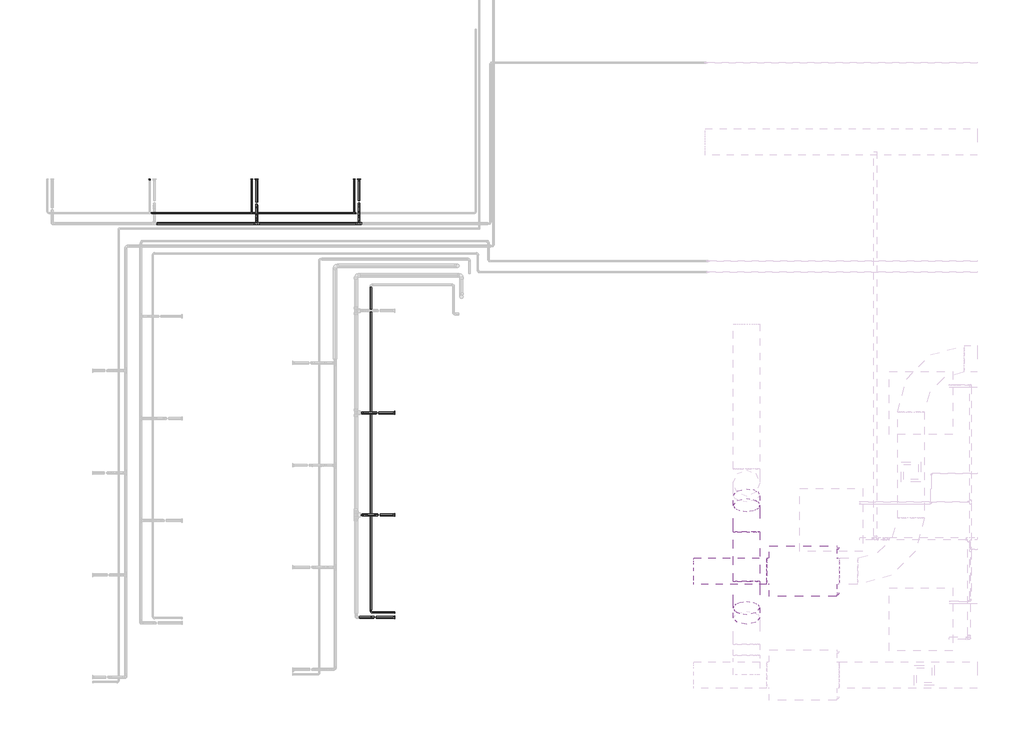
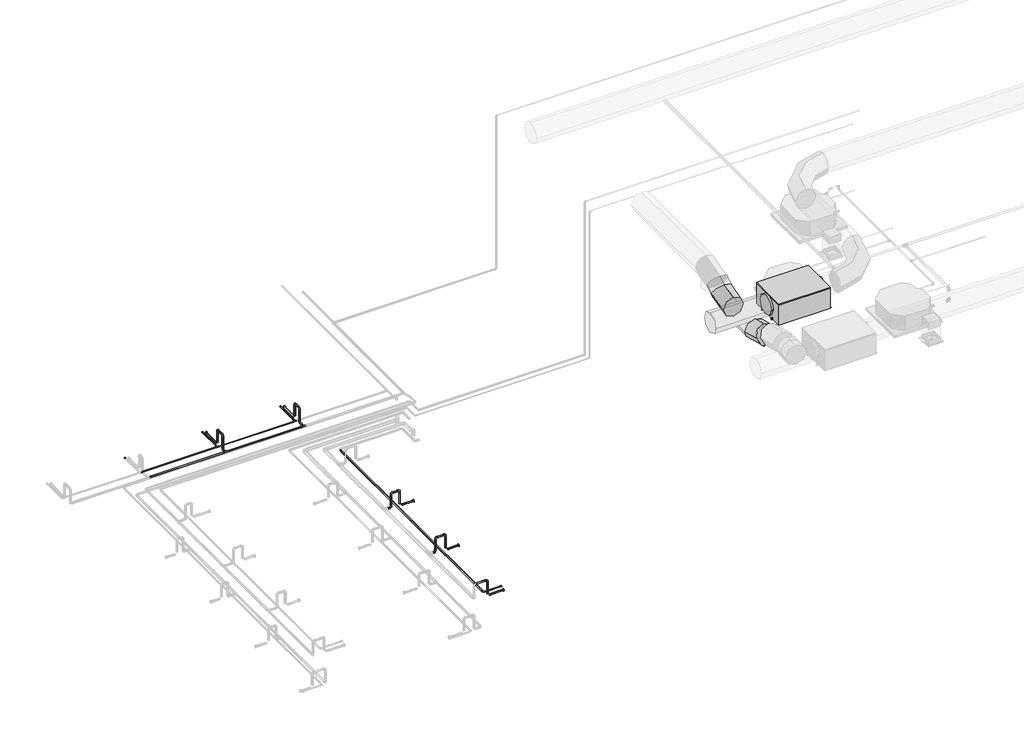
# One storey, part 4 of 22: 30 pipe segments, 28 pipe fittings, 4 duct segments, 2 duct fittings, 1 proxy.
"""IFC4 building model written with IfcOpenShell, lengths in millimetres."""

from ifc_helpers import new_model, si_unit, point, frame, frame_2d, origin, place, context, project, spatial, circle_curve, trimmed, segment, composite_curve, outline, extrude, transform, mapped, element, save
from components import fh_fh_400_6e0c7af0, duct_fitting_2_d_6dcb9c69, pipe_fitting_fefc82c8, pipe_fitting_16c020f5, pipe_fitting_b10472de, pipe_fitting_3263ca60, pipe_fitting_ae0032d9, pipe_fitting_bf9d9dba, pipe_fitting_13562042

model = new_model("IFC4")

# Units and contexts
model_context = context("Model", 3, world=origin())
ifc_project = project(units=[si_unit("LENGTHUNIT", "METRE", prefix="MILLI")], contexts=[model_context])

# Site, building, storey
site = spatial("IfcSite", under=ifc_project)
building = spatial("IfcBuilding", under=site)
storey = spatial("IfcBuildingStorey", under=building, Name="Nível 2", Elevation=3880.0)

# Proxy
placement = place(None, origin())
fh_fh_400_shape = fh_fh_400_6e0c7af0(model_context)
element("IfcBuildingElementProxy", 1, Name="FH : FH 400", ObjectType="FH : FH 400", at=placement, inside=storey, context=model_context, shape_type="MappedRepresentation", body=[
    mapped(fh_fh_400_shape, transform((-1343.4687297, -7194.5831069, 7280.0), x_axis=(0.0, 1.0, 0.0), y_axis=(-1.0, 0.0, 0.0), z_axis=(0.0, 0.0, 1.0))),
])

# Duct fittings
duct_fitting_2_d_shape = duct_fitting_2_d_6dcb9c69(model_context)
element("IfcDuctFitting", 2, ObjectType="M_Cotovelo redondo : 2 D", at=placement, inside=storey, context=model_context, shape_type="MappedRepresentation", body=[
    mapped(duct_fitting_2_d_shape, transform((-2195.6317244, -7565.5937492, 7201.0), x_axis=(0.0, 0.8660254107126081, -0.49999998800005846), y_axis=(0.0, 0.49999998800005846, 0.8660254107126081), z_axis=(1.0, 0.0, 0.0))),
])
element("IfcDuctFitting", 3, ObjectType="M_Cotovelo redondo : 2 D", at=placement, inside=storey, context=model_context, shape_type="MappedRepresentation", body=[
    mapped(duct_fitting_2_d_shape, transform((-2195.6317244, -6386.3612679, 7201.0), x_axis=(0.0, -0.8660254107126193, -0.49999998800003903), y_axis=(0.0, -0.49999998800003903, 0.8660254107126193), z_axis=(-1.0, 0.0, 0.0))),
])

# Duct segments
element("IfcDuctSegment", 4, ObjectType="Torneiras / Raio curto", at=placement, inside=storey, context=model_context, shape_type="SweptSolid", body=[
    extrude(outline(composite_curve([segment(trimmed(circle_curve(frame_2d((-7194.5831069, 7501.0)), 200.0), [point((-6994.5831069, 7501.0))], [point((-7194.5831069, 7301.0))], False, "CARTESIAN"), True, "CONTINUOUS"), segment(trimmed(circle_curve(frame_2d((-7194.5831069, 7501.0)), 200.0), [point((-7194.5831069, 7301.0))], [point((-7394.5831069, 7501.0))], False, "CARTESIAN"), True, "CONTINUOUS"), segment(trimmed(circle_curve(frame_2d((-7194.5831069, 7501.0)), 200.0), [point((-7394.5831069, 7501.0))], [point((-7194.5831069, 7701.0))], False, "CARTESIAN"), True, "CONTINUOUS"), segment(trimmed(circle_curve(frame_2d((-7194.5831069, 7501.0)), 200.0), [point((-7194.5831069, 7701.0))], [point((-6994.5831069, 7501.0))], False, "CARTESIAN"), True, "CONTINUOUS")], self_intersect=False)), frame((-2990.4687297, 0.0, 0.0), z_axis=(1.0, 0.0, 0.0), x_axis=(0.0, 1.0, 0.0)), (0.0, 0.0, 1.0), 1100.0),
])
element("IfcDuctSegment", 5, ObjectType="Torneiras / Raio curto", at=placement, inside=storey, context=model_context, shape_type="SweptSolid", body=[
    extrude(outline(composite_curve([segment(trimmed(circle_curve(frame_2d((7201.0, -2195.6317244)), 200.0), [point((7201.0, -1995.6317244))], [point((7401.0, -2195.6317244))], False, "CARTESIAN"), True, "CONTINUOUS"), segment(trimmed(circle_curve(frame_2d((7201.0, -2195.6317244)), 200.0), [point((7401.0, -2195.6317244))], [point((7201.0, -2395.6317244))], False, "CARTESIAN"), True, "CONTINUOUS"), segment(trimmed(circle_curve(frame_2d((7201.0, -2195.6317244)), 200.0), [point((7201.0, -2395.6317244))], [point((7001.0, -2195.6317244))], False, "CARTESIAN"), True, "CONTINUOUS"), segment(trimmed(circle_curve(frame_2d((7201.0, -2195.6317244)), 200.0), [point((7001.0, -2195.6317244))], [point((7201.0, -1995.6317244))], False, "CARTESIAN"), True, "CONTINUOUS")], self_intersect=False)), frame((0.0, -7351.2344012, 0.0), z_axis=(0.0, 1.0, 0.0), x_axis=(0.0, 0.0, 1.0)), (0.0, 0.0, 1.0), 750.5137853),
])
element("IfcDuctSegment", 6, ObjectType="Torneiras / Raio curto", at=placement, inside=storey, context=model_context, shape_type="SweptSolid", body=[
    extrude(outline(composite_curve([segment(trimmed(circle_curve(frame_2d((0.0, -200.0)), 200.0), [point((-200.0, -200.0))], [point((0.0, 0.0))], False, "CARTESIAN"), True, "CONTINUOUS"), segment(trimmed(circle_curve(frame_2d((0.0, -200.0)), 200.0), [point((0.0, 0.0))], [point((200.0, -200.0))], False, "CARTESIAN"), True, "CONTINUOUS"), segment(trimmed(circle_curve(frame_2d((0.0, -200.0)), 200.0), [point((200.0, -200.0))], [point((0.0, -400.0))], False, "CARTESIAN"), True, "CONTINUOUS"), segment(trimmed(circle_curve(frame_2d((0.0, -200.0)), 200.0), [point((0.0, -400.0))], [point((-200.0, -200.0))], False, "CARTESIAN"), True, "CONTINUOUS")], self_intersect=False)), frame((-2195.6317244, -6100.7206279, 7134.9745893), z_axis=(0.0, 0.8660254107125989, 0.4999999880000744), x_axis=(1.0, 0.0, 0.0)), (0.0, 0.0, 1.0), 171.2813184),
])
element("IfcDuctSegment", 7, ObjectType="Torneiras / Raio curto", at=placement, inside=storey, context=model_context, shape_type="SweptSolid", body=[
    extrude(outline(composite_curve([segment(trimmed(circle_curve(frame_2d((0.0, -200.0)), 200.0), [point((200.0, -200.0))], [point((0.0, -400.0))], False, "CARTESIAN"), True, "CONTINUOUS"), segment(trimmed(circle_curve(frame_2d((0.0, -200.0)), 200.0), [point((0.0, -400.0))], [point((-200.0, -200.0))], False, "CARTESIAN"), True, "CONTINUOUS"), segment(trimmed(circle_curve(frame_2d((0.0, -200.0)), 200.0), [point((-200.0, -200.0))], [point((0.0, 0.0))], False, "CARTESIAN"), True, "CONTINUOUS"), segment(trimmed(circle_curve(frame_2d((0.0, -200.0)), 200.0), [point((0.0, 0.0))], [point((200.0, -200.0))], False, "CARTESIAN"), True, "CONTINUOUS")], self_intersect=False)), frame((-2195.6317244, -7651.234394, 7481.3847536), z_axis=(0.0, -0.866025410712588, 0.4999999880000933), x_axis=(1.0, 0.0, 0.0)), (0.0, 0.0, 1.0), 171.2813184),
])

# Pipe fittings
pipe_fitting_shape = pipe_fitting_fefc82c8(model_context)
element("IfcPipeFitting", 8, ObjectType="Cotovelo - Soldado - CU : Padrão", at=placement, inside=storey, context=model_context, shape_type="MappedRepresentation", body=[
    mapped(pipe_fitting_shape, transform((-7817.0970934, -7890.4373291, 4218.9), x_axis=(0.0, 0.0, 1.0), y_axis=(-1.0, 0.0, 0.0), z_axis=(0.0, -1.0, 0.0))),
])
element("IfcPipeFitting", 9, ObjectType="Cotovelo - Soldado - CU : Padrão", at=placement, inside=storey, context=model_context, shape_type="MappedRepresentation", body=[
    mapped(pipe_fitting_shape, transform((-7757.0970933, -6346.4369367, 4218.8998749), x_axis=(0.0, 0.0, 1.0), y_axis=(-1.0, 0.0, 0.0), z_axis=(0.0, -1.0, 0.0))),
])
element("IfcPipeFitting", 10, ObjectType="Cotovelo - Soldado - CU : Padrão", at=placement, inside=storey, context=model_context, shape_type="MappedRepresentation", body=[
    mapped(pipe_fitting_shape, transform((-7957.0970933, -6346.4373291, 4218.9), x_axis=(-1.0, 0.0, 0.0), y_axis=(0.0, 0.0, -1.0), z_axis=(0.0, -1.0, 0.0))),
])
element("IfcPipeFitting", 11, ObjectType="Cotovelo - Soldado - CU : Padrão", at=placement, inside=storey, context=model_context, shape_type="MappedRepresentation", body=[
    mapped(pipe_fitting_shape, transform((-7957.0970933, -6346.4373291, 3918.9), x_axis=(0.0, 0.0, -1.0), y_axis=(-1.0, 0.0, 0.0), z_axis=(0.0, 1.0, 0.0))),
])
element("IfcPipeFitting", 12, ObjectType="Cotovelo - Soldado - CU : Padrão", at=placement, inside=storey, context=model_context, shape_type="MappedRepresentation", body=[
    mapped(pipe_fitting_shape, transform((-7777.0970933, -4807.4369647, 4218.8998838), x_axis=(0.0, 0.0, 1.0), y_axis=(-1.0, 0.0, 0.0), z_axis=(0.0, -1.0, 0.0))),
])
element("IfcPipeFitting", 13, ObjectType="Cotovelo - Soldado - CU : Padrão", at=placement, inside=storey, context=model_context, shape_type="MappedRepresentation", body=[
    mapped(pipe_fitting_shape, transform((-7947.0970933, -4807.4373291, 4218.9), x_axis=(-1.0, 0.0, 0.0), y_axis=(0.0, 0.0, -1.0), z_axis=(0.0, -1.0, 0.0))),
])
element("IfcPipeFitting", 14, ObjectType="Cotovelo - Soldado - CU : Padrão", at=placement, inside=storey, context=model_context, shape_type="MappedRepresentation", body=[
    mapped(pipe_fitting_shape, transform((-7947.0970933, -4807.4373291, 3918.9), x_axis=(0.0, 0.0, -1.0), y_axis=(-1.0, 0.0, 0.0), z_axis=(0.0, 1.0, 0.0))),
])
element("IfcPipeFitting", 15, ObjectType="Cotovelo - Soldado - CU : Padrão", at=placement, inside=storey, context=model_context, shape_type="MappedRepresentation", body=[
    mapped(pipe_fitting_shape, transform((-9580.0372756, -1672.2521774, 4218.9), x_axis=(0.0, 0.0, 1.0), y_axis=(0.0, -1.0, 0.0), z_axis=(1.0, 0.0, 0.0))),
])
element("IfcPipeFitting", 16, ObjectType="Cotovelo - Soldado - CU : Padrão", at=placement, inside=storey, context=model_context, shape_type="MappedRepresentation", body=[
    mapped(pipe_fitting_shape, transform((-9580.0372756, -1852.2521782, 4218.9), x_axis=(0.0, -1.0, 0.0), y_axis=(0.0, 0.0, -1.0), z_axis=(1.0, 0.0, 0.0))),
])
element("IfcPipeFitting", 17, ObjectType="Cotovelo - Soldado - CU : Padrão", at=placement, inside=storey, context=model_context, shape_type="MappedRepresentation", body=[
    mapped(pipe_fitting_shape, transform((-9580.0372756, -1852.2521782, 3918.9), x_axis=(0.0, 0.0, -1.0), y_axis=(0.0, -1.0, 0.0), z_axis=(-1.0, 0.0, 0.0))),
])
element("IfcPipeFitting", 18, ObjectType="Cotovelo - Soldado - CU : Padrão", at=placement, inside=storey, context=model_context, shape_type="MappedRepresentation", body=[
    mapped(pipe_fitting_shape, transform((-8036.0372756, -1652.2521774, 4218.9), x_axis=(0.0, 0.0, 1.0), y_axis=(0.0, -1.0, 0.0), z_axis=(1.0, 0.0, 0.0))),
])
element("IfcPipeFitting", 19, ObjectType="Cotovelo - Soldado - CU : Padrão", at=placement, inside=storey, context=model_context, shape_type="MappedRepresentation", body=[
    mapped(pipe_fitting_shape, transform((-8036.0372756, -1812.2521782, 4218.9), x_axis=(0.0, -1.0, 0.0), y_axis=(0.0, 0.0, -1.0), z_axis=(1.0, 0.0, 0.0))),
])
element("IfcPipeFitting", 20, ObjectType="Cotovelo - Soldado - CU : Padrão", at=placement, inside=storey, context=model_context, shape_type="MappedRepresentation", body=[
    mapped(pipe_fitting_shape, transform((-8036.0372756, -1812.2521782, 3918.9), x_axis=(0.0, 0.0, -1.0), y_axis=(0.0, -1.0, 0.0), z_axis=(-1.0, 0.0, 0.0))),
])
pipe_fitting_2_shape = pipe_fitting_16c020f5(model_context)
element("IfcPipeFitting", 21, ObjectType="Cotovelo - Soldado - CU : Padrão", at=placement, inside=storey, context=model_context, shape_type="MappedRepresentation", body=[
    mapped(pipe_fitting_2_shape, transform((-7857.0970926, -7817.4373291, 3935.5448465), x_axis=(0.0, -1.0, 0.0), y_axis=(0.9999999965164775, 0.0, 8.346882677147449e-05), z_axis=(-8.346882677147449e-05, 0.0, 0.9999999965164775))),
])
pipe_fitting_3_shape = pipe_fitting_b10472de(model_context)
element("IfcPipeFitting", 22, ObjectType="Tê - Soldado - CU : Padrão", at=placement, inside=storey, context=model_context, shape_type="MappedRepresentation", body=[
    mapped(pipe_fitting_3_shape, transform((-9653.0372756, -1792.2521765, 3954.5883608), x_axis=(-1.0, 0.0, 0.0), y_axis=(0.0, -0.9999999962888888, -8.615232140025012e-05), z_axis=(0.0, -8.615232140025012e-05, 0.9999999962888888))),
])
element("IfcPipeFitting", 23, ObjectType="Tê - Soldado - CU : Padrão", at=placement, inside=storey, context=model_context, shape_type="MappedRepresentation", body=[
    mapped(pipe_fitting_3_shape, transform((-8109.0372756, -1792.2521763, 3954.5864724), x_axis=(-1.0, 0.0, 0.0), y_axis=(0.0, -0.9999999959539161, -8.995647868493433e-05), z_axis=(0.0, -8.995647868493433e-05, 0.9999999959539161))),
])
pipe_fitting_4_shape = pipe_fitting_3263ca60(model_context)
element("IfcPipeFitting", 24, ObjectType="Bucha de redução reta - Soldada - CU : Padrão", at=placement, inside=storey, context=model_context, shape_type="MappedRepresentation", body=[
    mapped(pipe_fitting_4_shape, transform((-7497.0970939, -7890.4373291, 3899.7972653), x_axis=(-1.0, 0.0, 0.0), y_axis=(0.0, -1.0, 0.0), z_axis=(0.0, 0.0, 1.0))),
])
element("IfcPipeFitting", 25, ObjectType="Bucha de redução reta - Soldada - CU : Padrão", at=placement, inside=storey, context=model_context, shape_type="MappedRepresentation", body=[
    mapped(pipe_fitting_4_shape, transform((-7497.0970939, -6346.4373291, 3899.7972653), x_axis=(-1.0, 0.0, 0.0), y_axis=(0.0, -1.0, 0.0), z_axis=(0.0, 0.0, 1.0))),
])
element("IfcPipeFitting", 26, ObjectType="Bucha de redução reta - Soldada - CU : Padrão", at=placement, inside=storey, context=model_context, shape_type="MappedRepresentation", body=[
    mapped(pipe_fitting_4_shape, transform((-7497.0970939, -4807.4373291, 3899.7972653), x_axis=(-1.0, 0.0, 0.0), y_axis=(0.0, -1.0, 0.0), z_axis=(0.0, 0.0, 1.0))),
])
element("IfcPipeFitting", 27, ObjectType="Bucha de redução reta - Soldada - CU : Padrão", at=placement, inside=storey, context=model_context, shape_type="MappedRepresentation", body=[
    mapped(pipe_fitting_4_shape, transform((-9580.0372756, -1282.1712342, 3918.8823309), x_axis=(0.0, -1.0, 0.0), y_axis=(1.0, 0.0, 0.0), z_axis=(0.0, 0.0, 1.0))),
])
element("IfcPipeFitting", 28, ObjectType="Bucha de redução reta - Soldada - CU : Padrão", at=placement, inside=storey, context=model_context, shape_type="MappedRepresentation", body=[
    mapped(pipe_fitting_4_shape, transform((-8036.0372756, -1282.1712342, 3918.8823309), x_axis=(0.0, -1.0, 0.0), y_axis=(1.0, 0.0, 0.0), z_axis=(0.0, 0.0, 1.0))),
])
pipe_fitting_5_shape = pipe_fitting_ae0032d9(model_context)
element("IfcPipeFitting", 29, ObjectType="Tê - Soldado - CU : Padrão", at=placement, inside=storey, context=model_context, shape_type="MappedRepresentation", body=[
    mapped(pipe_fitting_5_shape, transform((-9580.0372756, -1952.2521784, 3918.9), x_axis=(-1.0, 0.0, 0.0), y_axis=(0.0, -1.0, 0.0), z_axis=(0.0, 0.0, 1.0))),
])
element("IfcPipeFitting", 30, ObjectType="Tê - Soldado - CU : Padrão", at=placement, inside=storey, context=model_context, shape_type="MappedRepresentation", body=[
    mapped(pipe_fitting_5_shape, transform((-8036.0372756, -1952.2521784, 3918.9), x_axis=(-1.0, 0.0, 0.0), y_axis=(0.0, -1.0, 0.0), z_axis=(0.0, 0.0, 1.0))),
])
pipe_fitting_6_shape = pipe_fitting_bf9d9dba(model_context)
element("IfcPipeFitting", 31, ObjectType="Bucha de redução reta - Soldada - CU : Padrão", at=placement, inside=storey, context=model_context, shape_type="MappedRepresentation", body=[
    mapped(pipe_fitting_6_shape, transform((-7497.0970939, -7817.4373291, 3935.5472653), x_axis=(-1.0, 0.0, 0.0), y_axis=(0.0, -1.0, 0.0), z_axis=(0.0, 0.0, 1.0))),
])
pipe_fitting_7_shape = pipe_fitting_13562042(model_context)
element("IfcPipeFitting", 32, ObjectType="Bucha de redução reta - Soldada - CU : Padrão", at=placement, inside=storey, context=model_context, shape_type="MappedRepresentation", body=[
    mapped(pipe_fitting_7_shape, transform((-11192.0372756, -1294.8301342, 3954.6312168), x_axis=(0.0, 0.9999999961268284, 8.801331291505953e-05), y_axis=(-1.0000000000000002, 0.0, 0.0), z_axis=(0.0, -8.801331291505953e-05, 0.9999999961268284))),
])
element("IfcPipeFitting", 33, ObjectType="Bucha de redução reta - Soldada - CU : Padrão", at=placement, inside=storey, context=model_context, shape_type="MappedRepresentation", body=[
    mapped(pipe_fitting_7_shape, transform((-9653.0372756, -1294.8301342, 3954.6312148), x_axis=(0.0, 0.9999999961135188, 8.816440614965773e-05), y_axis=(-1.0, 0.0, 0.0), z_axis=(0.0, -8.816440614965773e-05, 0.9999999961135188))),
])
element("IfcPipeFitting", 34, ObjectType="Bucha de redução reta - Soldada - CU : Padrão", at=placement, inside=storey, context=model_context, shape_type="MappedRepresentation", body=[
    mapped(pipe_fitting_7_shape, transform((-8109.0372756, -1294.8301342, 3954.6312188), x_axis=(0.0, 0.9999999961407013, 8.785554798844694e-05), y_axis=(-1.0, 0.0, 0.0), z_axis=(0.0, -8.785554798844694e-05, 0.9999999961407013))),
])
element("IfcPipeFitting", 35, ObjectType="Bucha de redução reta - Soldada - CU : Padrão", at=placement, inside=storey, context=model_context, shape_type="MappedRepresentation", body=[
    mapped(pipe_fitting_7_shape, transform((-7857.0970926, -7788.4587291, 3935.5448465), x_axis=(0.0, 1.0, 0.0), y_axis=(-0.9999999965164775, 0.0, -8.346882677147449e-05), z_axis=(-8.346882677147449e-05, 0.0, 0.9999999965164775))),
])

# Pipe segments
element("IfcPipeSegment", 36, ObjectType="Tubos de cobre HVAC", at=placement, inside=storey, context=model_context, shape_type="SweptSolid", body=[
    extrude(outline(composite_curve([segment(trimmed(circle_curve(frame_2d((0.0, 13.9999999)), 14.0), [point((-14.0, 13.9999999))], [point((0.0, 27.9999999))], False, "CARTESIAN"), True, "CONTINUOUS"), segment(trimmed(circle_curve(frame_2d((0.0, 13.9999999)), 14.0), [point((0.0, 27.9999999))], [point((14.0, 13.9999999))], False, "CARTESIAN"), True, "CONTINUOUS"), segment(trimmed(circle_curve(frame_2d((0.0, 13.9999999)), 14.0), [point((14.0, 13.9999999))], [point((0.0, 0.0))], False, "CARTESIAN"), True, "CONTINUOUS"), segment(trimmed(circle_curve(frame_2d((0.0, 13.9999999)), 14.0), [point((0.0, 0.0))], [point((-14.0, 13.9999999))], False, "CARTESIAN"), True, "CONTINUOUS")], self_intersect=False)), frame((-7516.4979168, -7890.4373291, 3885.7972654), z_axis=(-0.9999999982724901, 0.0, 5.877941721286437e-05), x_axis=(0.0, -1.0, 0.0)), (0.0, 0.0, 1.0), 258.4011218),
])
element("IfcPipeSegment", 37, ObjectType="Tubos de cobre HVAC", at=placement, inside=storey, context=model_context, shape_type="SweptSolid", body=[
    extrude(outline(composite_curve([segment(trimmed(circle_curve(frame_2d((0.0, -14.0)), 14.0), [point((-14.0, -14.0))], [point((0.0, 0.0))], False, "CARTESIAN"), True, "CONTINUOUS"), segment(trimmed(circle_curve(frame_2d((0.0, -14.0)), 14.0), [point((0.0, 0.0))], [point((14.0, -14.0))], False, "CARTESIAN"), True, "CONTINUOUS"), segment(trimmed(circle_curve(frame_2d((0.0, -14.0)), 14.0), [point((14.0, -14.0))], [point((0.0, -28.0))], False, "CARTESIAN"), True, "CONTINUOUS"), segment(trimmed(circle_curve(frame_2d((0.0, -14.0)), 14.0), [point((0.0, -28.0))], [point((-14.0, -14.0))], False, "CARTESIAN"), True, "CONTINUOUS")], self_intersect=False)), frame((-7817.0982152, -7904.4373291, 3942.0149346), z_axis=(4.780061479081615e-06, 0.0, 0.9999999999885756), x_axis=(-0.9999999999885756, 0.0, 4.780061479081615e-06)), (0.0, 0.0, 1.0), 234.6850654),
])
element("IfcPipeSegment", 38, ObjectType="Tubos de cobre HVAC", at=placement, inside=storey, context=model_context, shape_type="SweptSolid", body=[
    extrude(outline(composite_curve([segment(trimmed(circle_curve(frame_2d((-7890.4373291, 4218.9)), 14.0), [point((-7876.4373291, 4218.9))], [point((-7890.4373291, 4204.9))], False, "CARTESIAN"), True, "CONTINUOUS"), segment(trimmed(circle_curve(frame_2d((-7890.4373291, 4218.9)), 14.0), [point((-7890.4373291, 4204.9))], [point((-7904.4373291, 4218.9))], False, "CARTESIAN"), True, "CONTINUOUS"), segment(trimmed(circle_curve(frame_2d((-7890.4373291, 4218.9)), 14.0), [point((-7904.4373291, 4218.9))], [point((-7890.4373291, 4232.9))], False, "CARTESIAN"), True, "CONTINUOUS"), segment(trimmed(circle_curve(frame_2d((-7890.4373291, 4218.9)), 14.0), [point((-7890.4373291, 4232.9))], [point((-7876.4373291, 4218.9))], False, "CARTESIAN"), True, "CONTINUOUS")], self_intersect=False)), frame((-8035.6302691, 0.0, 0.0), z_axis=(1.0, 0.0, 0.0), x_axis=(0.0, 1.0, 0.0)), (0.0, 0.0, 1.0), 176.3331757),
])
element("IfcPipeSegment", 39, ObjectType="Tubos de cobre HVAC", at=placement, inside=storey, context=model_context, shape_type="SweptSolid", body=[
    extrude(outline(composite_curve([segment(trimmed(circle_curve(frame_2d((0.0, 13.9999999)), 14.0), [point((-14.0, 13.9999999))], [point((0.0, 28.0))], False, "CARTESIAN"), True, "CONTINUOUS"), segment(trimmed(circle_curve(frame_2d((0.0, 13.9999999)), 14.0), [point((0.0, 28.0))], [point((14.0, 13.9999999))], False, "CARTESIAN"), True, "CONTINUOUS"), segment(trimmed(circle_curve(frame_2d((0.0, 13.9999999)), 14.0), [point((14.0, 13.9999999))], [point((0.0, 0.0))], False, "CARTESIAN"), True, "CONTINUOUS"), segment(trimmed(circle_curve(frame_2d((0.0, 13.9999999)), 14.0), [point((0.0, 0.0))], [point((-14.0, 13.9999999))], False, "CARTESIAN"), True, "CONTINUOUS")], self_intersect=False)), frame((-7516.4981299, -6346.4373291, 3885.7972654), z_axis=(-0.9999999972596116, 1.9778757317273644e-06, 7.400584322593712e-05), x_axis=(-1.977875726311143e-06, -0.999999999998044, 1.4637357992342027e-10)), (0.0, 0.0, 1.0), 198.4012941),
])
element("IfcPipeSegment", 40, ObjectType="Tubos de cobre HVAC", at=placement, inside=storey, context=model_context, shape_type="SweptSolid", body=[
    extrude(outline(composite_curve([segment(trimmed(circle_curve(frame_2d((0.0, -14.0)), 14.0), [point((-14.0, -14.0))], [point((0.0, 0.0))], False, "CARTESIAN"), True, "CONTINUOUS"), segment(trimmed(circle_curve(frame_2d((0.0, -14.0)), 14.0), [point((0.0, 0.0))], [point((14.0, -14.0))], False, "CARTESIAN"), True, "CONTINUOUS"), segment(trimmed(circle_curve(frame_2d((0.0, -14.0)), 14.0), [point((14.0, -14.0))], [point((0.0, -28.0))], False, "CARTESIAN"), True, "CONTINUOUS"), segment(trimmed(circle_curve(frame_2d((0.0, -14.0)), 14.0), [point((0.0, -28.0))], [point((-14.0, -14.0))], False, "CARTESIAN"), True, "CONTINUOUS")], self_intersect=False)), frame((-7757.0983873, -6360.4369367, 3942.0148095), z_axis=(5.513762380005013e-06, 0.0, 0.9999999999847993), x_axis=(-0.9999999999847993, 0.0, 5.513762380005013e-06)), (0.0, 0.0, 1.0), 234.6850654),
])
element("IfcPipeSegment", 41, ObjectType="Tubos de cobre HVAC", at=placement, inside=storey, context=model_context, shape_type="SweptSolid", body=[
    extrude(outline(composite_curve([segment(trimmed(circle_curve(frame_2d((0.0, -14.0)), 14.0), [point((-14.0, -14.0))], [point((0.0, 0.0))], False, "CARTESIAN"), True, "CONTINUOUS"), segment(trimmed(circle_curve(frame_2d((0.0, -14.0)), 14.0), [point((0.0, 0.0))], [point((14.0, -14.0))], False, "CARTESIAN"), True, "CONTINUOUS"), segment(trimmed(circle_curve(frame_2d((0.0, -14.0)), 14.0), [point((14.0, -14.0))], [point((0.0, -28.0))], False, "CARTESIAN"), True, "CONTINUOUS"), segment(trimmed(circle_curve(frame_2d((0.0, -14.0)), 14.0), [point((0.0, -28.0))], [point((-14.0, -14.0))], False, "CARTESIAN"), True, "CONTINUOUS")], self_intersect=False)), frame((-7914.8970933, -6346.4373291, 4204.8998749), z_axis=(0.9999999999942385, 3.394577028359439e-06, 0.0), x_axis=(3.394577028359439e-06, -0.9999999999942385, 0.0)), (0.0, 0.0, 1.0), 115.6),
])
element("IfcPipeSegment", 42, ObjectType="Tubos de cobre HVAC", at=placement, inside=storey, context=model_context, shape_type="SweptSolid", body=[
    extrude(outline(composite_curve([segment(trimmed(circle_curve(frame_2d((-7957.0970933, -6346.4373291)), 14.0), [point((-7971.0970933, -6346.4373291))], [point((-7957.0970933, -6332.4373291))], False, "CARTESIAN"), True, "CONTINUOUS"), segment(trimmed(circle_curve(frame_2d((-7957.0970933, -6346.4373291)), 14.0), [point((-7957.0970933, -6332.4373291))], [point((-7943.0970933, -6346.4373291))], False, "CARTESIAN"), True, "CONTINUOUS"), segment(trimmed(circle_curve(frame_2d((-7957.0970933, -6346.4373291)), 14.0), [point((-7943.0970933, -6346.4373291))], [point((-7957.0970933, -6360.4373291))], False, "CARTESIAN"), True, "CONTINUOUS"), segment(trimmed(circle_curve(frame_2d((-7957.0970933, -6346.4373291)), 14.0), [point((-7957.0970933, -6360.4373291))], [point((-7971.0970933, -6346.4373291))], False, "CARTESIAN"), True, "CONTINUOUS")], self_intersect=False)), frame((0.0, 0.0, 3961.1), z_axis=(0.0, 0.0, 1.0), x_axis=(1.0, 0.0, 0.0)), (0.0, 0.0, 1.0), 215.6),
])
element("IfcPipeSegment", 43, ObjectType="Tubos de cobre HVAC", at=placement, inside=storey, context=model_context, shape_type="SweptSolid", body=[
    extrude(outline(composite_curve([segment(trimmed(circle_curve(frame_2d((0.0, 13.9999999)), 14.0), [point((-14.0, 13.9999999))], [point((0.0, 28.0))], False, "CARTESIAN"), True, "CONTINUOUS"), segment(trimmed(circle_curve(frame_2d((0.0, 13.9999999)), 14.0), [point((0.0, 28.0))], [point((14.0, 13.9999999))], False, "CARTESIAN"), True, "CONTINUOUS"), segment(trimmed(circle_curve(frame_2d((0.0, 13.9999999)), 14.0), [point((14.0, 13.9999999))], [point((0.0, 0.0))], False, "CARTESIAN"), True, "CONTINUOUS"), segment(trimmed(circle_curve(frame_2d((0.0, 13.9999999)), 14.0), [point((0.0, 0.0))], [point((-14.0, 13.9999999))], False, "CARTESIAN"), True, "CONTINUOUS")], self_intersect=False)), frame((-7516.4980487, -4807.4373291, 3885.7972654), z_axis=(-0.9999999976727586, 1.6686879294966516e-06, 6.820336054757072e-05), x_axis=(-1.668687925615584e-06, -0.9999999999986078, 1.1380940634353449e-10)), (0.0, 0.0, 1.0), 218.4012018),
])
element("IfcPipeSegment", 44, ObjectType="Tubos de cobre HVAC", at=placement, inside=storey, context=model_context, shape_type="SweptSolid", body=[
    extrude(outline(composite_curve([segment(trimmed(circle_curve(frame_2d((0.0, -14.0)), 14.0), [point((-14.0, -14.0))], [point((0.0, 0.0))], False, "CARTESIAN"), True, "CONTINUOUS"), segment(trimmed(circle_curve(frame_2d((0.0, -14.0)), 14.0), [point((0.0, 0.0))], [point((14.0, -14.0))], False, "CARTESIAN"), True, "CONTINUOUS"), segment(trimmed(circle_curve(frame_2d((0.0, -14.0)), 14.0), [point((14.0, -14.0))], [point((0.0, -28.0))], False, "CARTESIAN"), True, "CONTINUOUS"), segment(trimmed(circle_curve(frame_2d((0.0, -14.0)), 14.0), [point((0.0, -28.0))], [point((-14.0, -14.0))], False, "CARTESIAN"), True, "CONTINUOUS")], self_intersect=False)), frame((-7777.0982951, -4821.4369647, 3942.0148184), z_axis=(5.120764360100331e-06, 0.0, 0.9999999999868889), x_axis=(-0.9999999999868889, 0.0, 5.120764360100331e-06)), (0.0, 0.0, 1.0), 234.6850654),
])
element("IfcPipeSegment", 45, ObjectType="Tubos de cobre HVAC", at=placement, inside=storey, context=model_context, shape_type="SweptSolid", body=[
    extrude(outline(composite_curve([segment(trimmed(circle_curve(frame_2d((0.0, -14.0)), 14.0), [point((-14.0, -14.0))], [point((0.0, 0.0))], False, "CARTESIAN"), True, "CONTINUOUS"), segment(trimmed(circle_curve(frame_2d((0.0, -14.0)), 14.0), [point((0.0, 0.0))], [point((14.0, -14.0))], False, "CARTESIAN"), True, "CONTINUOUS"), segment(trimmed(circle_curve(frame_2d((0.0, -14.0)), 14.0), [point((14.0, -14.0))], [point((0.0, -28.0))], False, "CARTESIAN"), True, "CONTINUOUS"), segment(trimmed(circle_curve(frame_2d((0.0, -14.0)), 14.0), [point((0.0, -28.0))], [point((-14.0, -14.0))], False, "CARTESIAN"), True, "CONTINUOUS")], self_intersect=False)), frame((-7904.8970933, -4807.4373291, 4204.8998838), z_axis=(0.9999999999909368, 4.257516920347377e-06, 0.0), x_axis=(4.257516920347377e-06, -0.9999999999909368, 0.0)), (0.0, 0.0, 1.0), 85.6),
])
element("IfcPipeSegment", 46, ObjectType="Tubos de cobre HVAC", at=placement, inside=storey, context=model_context, shape_type="SweptSolid", body=[
    extrude(outline(composite_curve([segment(trimmed(circle_curve(frame_2d((-7947.0970933, -4807.4373291)), 14.0), [point((-7961.0970933, -4807.4373291))], [point((-7947.0970933, -4793.4373291))], False, "CARTESIAN"), True, "CONTINUOUS"), segment(trimmed(circle_curve(frame_2d((-7947.0970933, -4807.4373291)), 14.0), [point((-7947.0970933, -4793.4373291))], [point((-7933.0970933, -4807.4373291))], False, "CARTESIAN"), True, "CONTINUOUS"), segment(trimmed(circle_curve(frame_2d((-7947.0970933, -4807.4373291)), 14.0), [point((-7933.0970933, -4807.4373291))], [point((-7947.0970933, -4821.4373291))], False, "CARTESIAN"), True, "CONTINUOUS"), segment(trimmed(circle_curve(frame_2d((-7947.0970933, -4807.4373291)), 14.0), [point((-7947.0970933, -4821.4373291))], [point((-7961.0970933, -4807.4373291))], False, "CARTESIAN"), True, "CONTINUOUS")], self_intersect=False)), frame((0.0, 0.0, 3961.1), z_axis=(0.0, 0.0, 1.0), x_axis=(1.0, 0.0, 0.0)), (0.0, 0.0, 1.0), 215.6),
])
element("IfcPipeSegment", 47, ObjectType="Tubos de cobre HVAC", at=placement, inside=storey, context=model_context, shape_type="SweptSolid", body=[
    extrude(outline(composite_curve([segment(trimmed(circle_curve(frame_2d((-4807.4373291, 3918.9)), 14.0), [point((-4821.4373291, 3918.9))], [point((-4807.4373291, 3932.9))], False, "CARTESIAN"), True, "CONTINUOUS"), segment(trimmed(circle_curve(frame_2d((-4807.4373291, 3918.9)), 14.0), [point((-4807.4373291, 3932.9))], [point((-4793.4373291, 3918.9))], False, "CARTESIAN"), True, "CONTINUOUS"), segment(trimmed(circle_curve(frame_2d((-4807.4373291, 3918.9)), 14.0), [point((-4793.4373291, 3918.9))], [point((-4807.4373291, 3904.9))], False, "CARTESIAN"), True, "CONTINUOUS"), segment(trimmed(circle_curve(frame_2d((-4807.4373291, 3918.9)), 14.0), [point((-4807.4373291, 3904.9))], [point((-4821.4373291, 3918.9))], False, "CARTESIAN"), True, "CONTINUOUS")], self_intersect=False)), frame((-8002.5522691, 0.0, 0.0), z_axis=(1.0, 0.0, 0.0), x_axis=(0.0, 1.0, 0.0)), (0.0, 0.0, 1.0), 13.2551758),
])
element("IfcPipeSegment", 48, ObjectType="Tubos de cobre HVAC", at=placement, inside=storey, context=model_context, shape_type="SweptSolid", body=[
    extrude(outline(composite_curve([segment(trimmed(circle_curve(frame_2d((-7817.4373291, 3935.5472653)), 7.935), [point((-7809.5023291, 3935.5472653))], [point((-7817.4373291, 3927.6122653))], False, "CARTESIAN"), True, "CONTINUOUS"), segment(trimmed(circle_curve(frame_2d((-7817.4373291, 3935.5472653)), 7.935), [point((-7817.4373291, 3927.6122653))], [point((-7825.3723291, 3935.5472653))], False, "CARTESIAN"), True, "CONTINUOUS"), segment(trimmed(circle_curve(frame_2d((-7817.4373291, 3935.5472653)), 7.935), [point((-7825.3723291, 3935.5472653))], [point((-7817.4373291, 3943.4822653))], False, "CARTESIAN"), True, "CONTINUOUS"), segment(trimmed(circle_curve(frame_2d((-7817.4373291, 3935.5472653)), 7.935), [point((-7817.4373291, 3943.4822653))], [point((-7809.5023291, 3935.5472653))], False, "CARTESIAN"), True, "CONTINUOUS")], self_intersect=False)), frame((-7828.1184927, 0.0, 0.0), z_axis=(1.0, 0.0, 0.0), x_axis=(0.0, 1.0, 0.0)), (0.0, 0.0, 1.0), 318.3624988),
])
element("IfcPipeSegment", 49, ObjectType="Tubos de cobre HVAC", at=placement, inside=storey, context=model_context, shape_type="SweptSolid", body=[
    extrude(outline(composite_curve([segment(trimmed(circle_curve(frame_2d((3935.5448465, -7857.0970926)), 12.7), [point((3935.5448465, -7844.3970926))], [point((3948.2448465, -7857.0970926))], False, "CARTESIAN"), True, "CONTINUOUS"), segment(trimmed(circle_curve(frame_2d((3935.5448465, -7857.0970926)), 12.7), [point((3948.2448465, -7857.0970926))], [point((3935.5448465, -7869.7970926))], False, "CARTESIAN"), True, "CONTINUOUS"), segment(trimmed(circle_curve(frame_2d((3935.5448465, -7857.0970926)), 12.7), [point((3935.5448465, -7869.7970926))], [point((3922.8448465, -7857.0970926))], False, "CARTESIAN"), True, "CONTINUOUS"), segment(trimmed(circle_curve(frame_2d((3935.5448465, -7857.0970926)), 12.7), [point((3922.8448465, -7857.0970926))], [point((3935.5448465, -7844.3970926))], False, "CARTESIAN"), True, "CONTINUOUS")], self_intersect=False)), frame((0.0, -7775.7998291, 0.0), z_axis=(0.0, 1.0, 0.0), x_axis=(0.0, 0.0, 1.0)), (0.0, 0.0, 1.0), 4861.9505),
])
element("IfcPipeSegment", 50, ObjectType="Tubos de cobre HVAC", at=placement, inside=storey, context=model_context, shape_type="SweptSolid", body=[
    extrude(outline(composite_curve([segment(trimmed(circle_curve(frame_2d((0.0, 14.0)), 14.0), [point((0.0, 0.0))], [point((-14.0, 14.0))], False, "CARTESIAN"), True, "CONTINUOUS"), segment(trimmed(circle_curve(frame_2d((0.0, 14.0)), 14.0), [point((-14.0, 14.0))], [point((0.0, 28.0))], False, "CARTESIAN"), True, "CONTINUOUS"), segment(trimmed(circle_curve(frame_2d((0.0, 14.0)), 14.0), [point((0.0, 28.0))], [point((14.0, 14.0))], False, "CARTESIAN"), True, "CONTINUOUS"), segment(trimmed(circle_curve(frame_2d((0.0, 14.0)), 14.0), [point((14.0, 14.0))], [point((0.0, 0.0))], False, "CARTESIAN"), True, "CONTINUOUS")], self_intersect=False)), frame((-9594.0372756, -1301.5712342, 3918.8823309), z_axis=(0.0, -0.9999999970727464, 7.651475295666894e-05), x_axis=(0.0, -7.651475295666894e-05, -0.9999999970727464)), (0.0, 0.0, 1.0), 328.4809443),
])
element("IfcPipeSegment", 51, ObjectType="Tubos de cobre HVAC", at=placement, inside=storey, context=model_context, shape_type="SweptSolid", body=[
    extrude(outline(composite_curve([segment(trimmed(circle_curve(frame_2d((-9580.0372756, -1672.2521774)), 14.0), [point((-9566.0372756, -1672.2521774))], [point((-9580.0372756, -1686.2521774))], False, "CARTESIAN"), True, "CONTINUOUS"), segment(trimmed(circle_curve(frame_2d((-9580.0372756, -1672.2521774)), 14.0), [point((-9580.0372756, -1686.2521774))], [point((-9594.0372756, -1672.2521774))], False, "CARTESIAN"), True, "CONTINUOUS"), segment(trimmed(circle_curve(frame_2d((-9580.0372756, -1672.2521774)), 14.0), [point((-9594.0372756, -1672.2521774))], [point((-9580.0372756, -1658.2521774))], False, "CARTESIAN"), True, "CONTINUOUS"), segment(trimmed(circle_curve(frame_2d((-9580.0372756, -1672.2521774)), 14.0), [point((-9580.0372756, -1658.2521774))], [point((-9566.0372756, -1672.2521774))], False, "CARTESIAN"), True, "CONTINUOUS")], self_intersect=False)), frame((0.0, 0.0, 3961.1106936), z_axis=(0.0, 0.0, 1.0), x_axis=(1.0, 0.0, 0.0)), (0.0, 0.0, 1.0), 215.5893064),
])
element("IfcPipeSegment", 52, ObjectType="Tubos de cobre HVAC", at=placement, inside=storey, context=model_context, shape_type="SweptSolid", body=[
    extrude(outline(composite_curve([segment(trimmed(circle_curve(frame_2d((4218.9, -9580.0372756)), 14.0), [point((4218.9, -9594.0372756))], [point((4204.9, -9580.0372756))], False, "CARTESIAN"), True, "CONTINUOUS"), segment(trimmed(circle_curve(frame_2d((4218.9, -9580.0372756)), 14.0), [point((4204.9, -9580.0372756))], [point((4218.9, -9566.0372756))], False, "CARTESIAN"), True, "CONTINUOUS"), segment(trimmed(circle_curve(frame_2d((4218.9, -9580.0372756)), 14.0), [point((4218.9, -9566.0372756))], [point((4232.9, -9580.0372756))], False, "CARTESIAN"), True, "CONTINUOUS"), segment(trimmed(circle_curve(frame_2d((4218.9, -9580.0372756)), 14.0), [point((4232.9, -9580.0372756))], [point((4218.9, -9594.0372756))], False, "CARTESIAN"), True, "CONTINUOUS")], self_intersect=False)), frame((0.0, -1810.0521782, 0.0), z_axis=(0.0, 1.0, 0.0), x_axis=(0.0, 0.0, 1.0)), (0.0, 0.0, 1.0), 95.6000008),
])
element("IfcPipeSegment", 53, ObjectType="Tubos de cobre HVAC", at=placement, inside=storey, context=model_context, shape_type="SweptSolid", body=[
    extrude(outline(composite_curve([segment(trimmed(circle_curve(frame_2d((-9580.0372756, -1852.2521782)), 14.0), [point((-9566.0372756, -1852.2521782))], [point((-9580.0372756, -1866.2521782))], False, "CARTESIAN"), True, "CONTINUOUS"), segment(trimmed(circle_curve(frame_2d((-9580.0372756, -1852.2521782)), 14.0), [point((-9580.0372756, -1866.2521782))], [point((-9594.0372756, -1852.2521782))], False, "CARTESIAN"), True, "CONTINUOUS"), segment(trimmed(circle_curve(frame_2d((-9580.0372756, -1852.2521782)), 14.0), [point((-9594.0372756, -1852.2521782))], [point((-9580.0372756, -1838.2521782))], False, "CARTESIAN"), True, "CONTINUOUS"), segment(trimmed(circle_curve(frame_2d((-9580.0372756, -1852.2521782)), 14.0), [point((-9580.0372756, -1838.2521782))], [point((-9566.0372756, -1852.2521782))], False, "CARTESIAN"), True, "CONTINUOUS")], self_intersect=False)), frame((0.0, 0.0, 3961.1), z_axis=(0.0, 0.0, 1.0), x_axis=(1.0, 0.0, 0.0)), (0.0, 0.0, 1.0), 215.6),
])
element("IfcPipeSegment", 54, ObjectType="Tubos de cobre HVAC", at=placement, inside=storey, context=model_context, shape_type="SweptSolid", body=[
    extrude(outline(composite_curve([segment(trimmed(circle_curve(frame_2d((3918.9, -9580.0372756)), 14.0), [point((3918.9, -9566.0372756))], [point((3932.9, -9580.0372756))], False, "CARTESIAN"), True, "CONTINUOUS"), segment(trimmed(circle_curve(frame_2d((3918.9, -9580.0372756)), 14.0), [point((3932.9, -9580.0372756))], [point((3918.9, -9594.0372756))], False, "CARTESIAN"), True, "CONTINUOUS"), segment(trimmed(circle_curve(frame_2d((3918.9, -9580.0372756)), 14.0), [point((3918.9, -9594.0372756))], [point((3904.9, -9580.0372756))], False, "CARTESIAN"), True, "CONTINUOUS"), segment(trimmed(circle_curve(frame_2d((3918.9, -9580.0372756)), 14.0), [point((3904.9, -9580.0372756))], [point((3918.9, -9566.0372756))], False, "CARTESIAN"), True, "CONTINUOUS")], self_intersect=False)), frame((0.0, -1913.7521784, 0.0), z_axis=(0.0, 1.0, 0.0), x_axis=(0.0, 0.0, 1.0)), (0.0, 0.0, 1.0), 19.3000001),
])
element("IfcPipeSegment", 55, ObjectType="Tubos de cobre HVAC", at=placement, inside=storey, context=model_context, shape_type="SweptSolid", body=[
    extrude(outline(composite_curve([segment(trimmed(circle_curve(frame_2d((-1952.2521784, 3918.9)), 14.0), [point((-1966.2521784, 3918.9))], [point((-1952.2521784, 3932.9))], False, "CARTESIAN"), True, "CONTINUOUS"), segment(trimmed(circle_curve(frame_2d((-1952.2521784, 3918.9)), 14.0), [point((-1952.2521784, 3932.9))], [point((-1938.2521784, 3918.9))], False, "CARTESIAN"), True, "CONTINUOUS"), segment(trimmed(circle_curve(frame_2d((-1952.2521784, 3918.9)), 14.0), [point((-1938.2521784, 3918.9))], [point((-1952.2521784, 3904.9))], False, "CARTESIAN"), True, "CONTINUOUS"), segment(trimmed(circle_curve(frame_2d((-1952.2521784, 3918.9)), 14.0), [point((-1952.2521784, 3904.9))], [point((-1966.2521784, 3918.9))], False, "CARTESIAN"), True, "CONTINUOUS")], self_intersect=False)), frame((-11081.0372756, 0.0, 0.0), z_axis=(1.0, 0.0, 0.0), x_axis=(0.0, 1.0, 0.0)), (0.0, 0.0, 1.0), 1463.0),
])
element("IfcPipeSegment", 56, ObjectType="Tubos de cobre HVAC", at=placement, inside=storey, context=model_context, shape_type="SweptSolid", body=[
    extrude(outline(composite_curve([segment(trimmed(circle_curve(frame_2d((0.0, 14.0)), 14.0), [point((0.0, 0.0))], [point((-14.0, 14.0))], False, "CARTESIAN"), True, "CONTINUOUS"), segment(trimmed(circle_curve(frame_2d((0.0, 14.0)), 14.0), [point((-14.0, 14.0))], [point((0.0, 28.0))], False, "CARTESIAN"), True, "CONTINUOUS"), segment(trimmed(circle_curve(frame_2d((0.0, 14.0)), 14.0), [point((0.0, 28.0))], [point((13.9999999, 14.0))], False, "CARTESIAN"), True, "CONTINUOUS"), segment(trimmed(circle_curve(frame_2d((0.0, 14.0)), 14.0), [point((13.9999999, 14.0))], [point((0.0, 0.0))], False, "CARTESIAN"), True, "CONTINUOUS")], self_intersect=False)), frame((-8050.0372756, -1301.5712342, 3918.8823309), z_axis=(0.0, -0.9999999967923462, 8.009561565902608e-05), x_axis=(0.0, -8.009561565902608e-05, -0.9999999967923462)), (0.0, 0.0, 1.0), 308.4809442),
])
element("IfcPipeSegment", 57, ObjectType="Tubos de cobre HVAC", at=placement, inside=storey, context=model_context, shape_type="SweptSolid", body=[
    extrude(outline(composite_curve([segment(trimmed(circle_curve(frame_2d((-8036.0372756, -1652.2521774)), 14.0), [point((-8022.0372756, -1652.2521774))], [point((-8036.0372756, -1666.2521774))], False, "CARTESIAN"), True, "CONTINUOUS"), segment(trimmed(circle_curve(frame_2d((-8036.0372756, -1652.2521774)), 14.0), [point((-8036.0372756, -1666.2521774))], [point((-8050.0372756, -1652.2521774))], False, "CARTESIAN"), True, "CONTINUOUS"), segment(trimmed(circle_curve(frame_2d((-8036.0372756, -1652.2521774)), 14.0), [point((-8050.0372756, -1652.2521774))], [point((-8036.0372756, -1638.2521774))], False, "CARTESIAN"), True, "CONTINUOUS"), segment(trimmed(circle_curve(frame_2d((-8036.0372756, -1652.2521774)), 14.0), [point((-8036.0372756, -1638.2521774))], [point((-8022.0372756, -1652.2521774))], False, "CARTESIAN"), True, "CONTINUOUS")], self_intersect=False)), frame((0.0, 0.0, 3961.110419), z_axis=(0.0, 0.0, 1.0), x_axis=(1.0, 0.0, 0.0)), (0.0, 0.0, 1.0), 215.589581),
])
element("IfcPipeSegment", 58, ObjectType="Tubos de cobre HVAC", at=placement, inside=storey, context=model_context, shape_type="SweptSolid", body=[
    extrude(outline(composite_curve([segment(trimmed(circle_curve(frame_2d((4218.9, -8036.0372756)), 14.0), [point((4218.9, -8050.0372756))], [point((4204.9, -8036.0372756))], False, "CARTESIAN"), True, "CONTINUOUS"), segment(trimmed(circle_curve(frame_2d((4218.9, -8036.0372756)), 14.0), [point((4204.9, -8036.0372756))], [point((4218.9, -8022.0372756))], False, "CARTESIAN"), True, "CONTINUOUS"), segment(trimmed(circle_curve(frame_2d((4218.9, -8036.0372756)), 14.0), [point((4218.9, -8022.0372756))], [point((4232.9, -8036.0372756))], False, "CARTESIAN"), True, "CONTINUOUS"), segment(trimmed(circle_curve(frame_2d((4218.9, -8036.0372756)), 14.0), [point((4232.9, -8036.0372756))], [point((4218.9, -8050.0372756))], False, "CARTESIAN"), True, "CONTINUOUS")], self_intersect=False)), frame((0.0, -1770.0521782, 0.0), z_axis=(0.0, 1.0, 0.0), x_axis=(0.0, 0.0, 1.0)), (0.0, 0.0, 1.0), 75.6000008),
])
element("IfcPipeSegment", 59, ObjectType="Tubos de cobre HVAC", at=placement, inside=storey, context=model_context, shape_type="SweptSolid", body=[
    extrude(outline(composite_curve([segment(trimmed(circle_curve(frame_2d((-8036.0372756, -1812.2521782)), 14.0), [point((-8050.0372756, -1812.2521782))], [point((-8036.0372756, -1798.2521782))], False, "CARTESIAN"), True, "CONTINUOUS"), segment(trimmed(circle_curve(frame_2d((-8036.0372756, -1812.2521782)), 14.0), [point((-8036.0372756, -1798.2521782))], [point((-8022.0372756, -1812.2521782))], False, "CARTESIAN"), True, "CONTINUOUS"), segment(trimmed(circle_curve(frame_2d((-8036.0372756, -1812.2521782)), 14.0), [point((-8022.0372756, -1812.2521782))], [point((-8036.0372756, -1826.2521782))], False, "CARTESIAN"), True, "CONTINUOUS"), segment(trimmed(circle_curve(frame_2d((-8036.0372756, -1812.2521782)), 14.0), [point((-8036.0372756, -1826.2521782))], [point((-8050.0372756, -1812.2521782))], False, "CARTESIAN"), True, "CONTINUOUS")], self_intersect=False)), frame((0.0, 0.0, 3961.1), z_axis=(0.0, 0.0, 1.0), x_axis=(1.0, 0.0, 0.0)), (0.0, 0.0, 1.0), 215.6),
])
element("IfcPipeSegment", 60, ObjectType="Tubos de cobre HVAC", at=placement, inside=storey, context=model_context, shape_type="SweptSolid", body=[
    extrude(outline(composite_curve([segment(trimmed(circle_curve(frame_2d((3918.9, -8036.0372756)), 14.0), [point((3918.9, -8022.0372756))], [point((3932.9, -8036.0372756))], False, "CARTESIAN"), True, "CONTINUOUS"), segment(trimmed(circle_curve(frame_2d((3918.9, -8036.0372756)), 14.0), [point((3932.9, -8036.0372756))], [point((3918.9, -8050.0372756))], False, "CARTESIAN"), True, "CONTINUOUS"), segment(trimmed(circle_curve(frame_2d((3918.9, -8036.0372756)), 14.0), [point((3918.9, -8050.0372756))], [point((3904.9, -8036.0372756))], False, "CARTESIAN"), True, "CONTINUOUS"), segment(trimmed(circle_curve(frame_2d((3918.9, -8036.0372756)), 14.0), [point((3904.9, -8036.0372756))], [point((3918.9, -8022.0372756))], False, "CARTESIAN"), True, "CONTINUOUS")], self_intersect=False)), frame((0.0, -1913.7521784, 0.0), z_axis=(0.0, 1.0, 0.0), x_axis=(0.0, 0.0, 1.0)), (0.0, 0.0, 1.0), 59.3000002),
])
element("IfcPipeSegment", 61, ObjectType="Tubos de cobre HVAC", at=placement, inside=storey, context=model_context, shape_type="SweptSolid", body=[
    extrude(outline(composite_curve([segment(trimmed(circle_curve(frame_2d((-1952.2521784, 3918.9)), 14.0), [point((-1966.2521784, 3918.9))], [point((-1952.2521784, 3932.9))], False, "CARTESIAN"), True, "CONTINUOUS"), segment(trimmed(circle_curve(frame_2d((-1952.2521784, 3918.9)), 14.0), [point((-1952.2521784, 3932.9))], [point((-1938.2521784, 3918.9))], False, "CARTESIAN"), True, "CONTINUOUS"), segment(trimmed(circle_curve(frame_2d((-1952.2521784, 3918.9)), 14.0), [point((-1938.2521784, 3918.9))], [point((-1952.2521784, 3904.9))], False, "CARTESIAN"), True, "CONTINUOUS"), segment(trimmed(circle_curve(frame_2d((-1952.2521784, 3918.9)), 14.0), [point((-1952.2521784, 3904.9))], [point((-1966.2521784, 3918.9))], False, "CARTESIAN"), True, "CONTINUOUS")], self_intersect=False)), frame((-9542.0372756, 0.0, 0.0), z_axis=(1.0, 0.0, 0.0), x_axis=(0.0, 1.0, 0.0)), (0.0, 0.0, 1.0), 1468.0),
])
element("IfcPipeSegment", 62, ObjectType="Tubos de cobre HVAC", at=placement, inside=storey, context=model_context, shape_type="SweptSolid", body=[
    extrude(outline(composite_curve([segment(trimmed(circle_curve(frame_2d((0.0, 7.935)), 7.935), [point((0.0, 15.87))], [point((7.9349999, 7.935))], False, "CARTESIAN"), True, "CONTINUOUS"), segment(trimmed(circle_curve(frame_2d((0.0, 7.935)), 7.935), [point((7.9349999, 7.935))], [point((0.0, 0.0))], False, "CARTESIAN"), True, "CONTINUOUS"), segment(trimmed(circle_curve(frame_2d((0.0, 7.935)), 7.935), [point((0.0, 0.0))], [point((-7.935, 7.935))], False, "CARTESIAN"), True, "CONTINUOUS"), segment(trimmed(circle_curve(frame_2d((0.0, 7.935)), 7.935), [point((-7.935, 7.935))], [point((0.0, 15.87))], False, "CARTESIAN"), True, "CONTINUOUS")], self_intersect=False)), frame((-9660.9722756, -1764.6674766, 3954.5907373), z_axis=(0.0, 0.9999999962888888, 8.61523214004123e-05), x_axis=(0.0, -8.61523214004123e-05, 0.9999999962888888)), (0.0, 0.0, 1.0), 469.8373441),
])
element("IfcPipeSegment", 63, ObjectType="Tubos de cobre HVAC", at=placement, inside=storey, context=model_context, shape_type="SweptSolid", body=[
    extrude(outline(composite_curve([segment(trimmed(circle_curve(frame_2d((0.0, 7.935)), 7.935), [point((-7.935, 7.935))], [point((0.0, 15.87))], False, "CARTESIAN"), True, "CONTINUOUS"), segment(trimmed(circle_curve(frame_2d((0.0, 7.935)), 7.935), [point((0.0, 15.87))], [point((7.935, 7.935))], False, "CARTESIAN"), True, "CONTINUOUS"), segment(trimmed(circle_curve(frame_2d((0.0, 7.935)), 7.935), [point((7.935, 7.935))], [point((0.0, 0.0))], False, "CARTESIAN"), True, "CONTINUOUS"), segment(trimmed(circle_curve(frame_2d((0.0, 7.935)), 7.935), [point((0.0, 0.0))], [point((-7.935, 7.935))], False, "CARTESIAN"), True, "CONTINUOUS")], self_intersect=False)), frame((-11164.4019256, -1792.2521764, 3946.652437), z_axis=(1.0, -6.939160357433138e-11, 0.0), x_axis=(6.939160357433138e-11, 1.0, 0.0)), (0.0, 0.0, 1.0), 1483.7293),
])
element("IfcPipeSegment", 64, ObjectType="Tubos de cobre HVAC", at=placement, inside=storey, context=model_context, shape_type="SweptSolid", body=[
    extrude(outline(composite_curve([segment(trimmed(circle_curve(frame_2d((0.0, 7.935)), 7.935), [point((0.0, 15.87))], [point((7.935, 7.935))], False, "CARTESIAN"), True, "CONTINUOUS"), segment(trimmed(circle_curve(frame_2d((0.0, 7.935)), 7.935), [point((7.935, 7.935))], [point((0.0, 0.0))], False, "CARTESIAN"), True, "CONTINUOUS"), segment(trimmed(circle_curve(frame_2d((0.0, 7.935)), 7.935), [point((0.0, 0.0))], [point((-7.9349999, 7.935))], False, "CARTESIAN"), True, "CONTINUOUS"), segment(trimmed(circle_curve(frame_2d((0.0, 7.935)), 7.935), [point((-7.9349999, 7.935))], [point((0.0, 15.87))], False, "CARTESIAN"), True, "CONTINUOUS")], self_intersect=False)), frame((-8116.9722756, -1764.6674764, 3954.5889538), z_axis=(0.0, 0.999999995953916, 8.995647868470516e-05), x_axis=(0.0, -8.995647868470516e-05, 0.999999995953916)), (0.0, 0.0, 1.0), 469.8373441),
])
element("IfcPipeSegment", 65, ObjectType="Tubos de cobre HVAC", at=placement, inside=storey, context=model_context, shape_type="SweptSolid", body=[
    extrude(outline(composite_curve([segment(trimmed(circle_curve(frame_2d((0.0, 7.935)), 7.935), [point((-7.935, 7.935))], [point((0.0, 15.87))], False, "CARTESIAN"), True, "CONTINUOUS"), segment(trimmed(circle_curve(frame_2d((0.0, 7.935)), 7.935), [point((0.0, 15.87))], [point((7.935, 7.935))], False, "CARTESIAN"), True, "CONTINUOUS"), segment(trimmed(circle_curve(frame_2d((0.0, 7.935)), 7.935), [point((7.935, 7.935))], [point((0.0, 0.0))], False, "CARTESIAN"), True, "CONTINUOUS"), segment(trimmed(circle_curve(frame_2d((0.0, 7.935)), 7.935), [point((0.0, 0.0))], [point((-7.935, 7.935))], False, "CARTESIAN"), True, "CONTINUOUS")], self_intersect=False)), frame((-9625.4019256, -1792.2521765, 3946.6533608), z_axis=(1.0, 1.4385292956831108e-10, 0.0), x_axis=(-1.4385292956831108e-10, 1.0, 0.0)), (0.0, 0.0, 1.0), 1488.7293),
])

save(model, "model.ifc")
